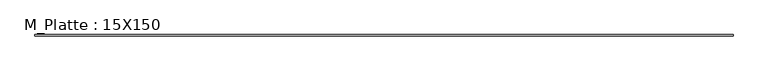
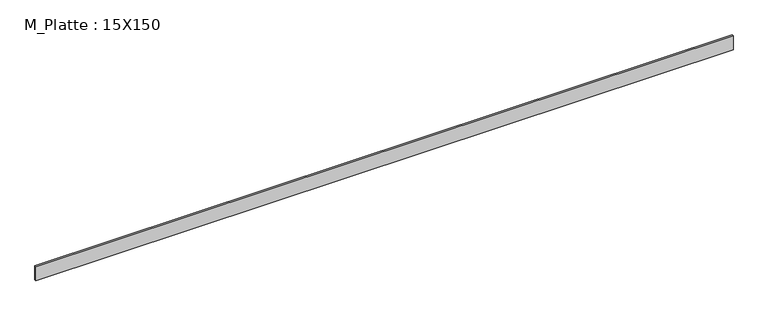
"""IFC4 building model written with IfcOpenShell, lengths in millimetres: beam geometry, M_Platte : 15X150."""

import ifcopenshell
import ifcopenshell.guid

model = None  # the IFC model being written
_history = None  # IfcOwnerHistory: only IFC2X3 demands one
_inside = {}  # id of a spatial element -> (the spatial element, [elements in it])
_under = {}  # id of a project, library or spatial element -> (it, [spatial elements below it])
_declared = {}  # id of a project -> (the project, [libraries it declares])
_typed = {}  # id of a type object -> (the type object, [elements of that type])
_made_of = {}  # id of a material, layer set ... -> (it, [elements and type objects made of it])


def new_model(schema):
    """Start an empty IFC model of exactly this schema.

    Asked for "IFC4X3", IfcOpenShell would pick the latest addendum, in which some entities
    have other attributes; the version numbers below select the first issue.
    IFC2X3 requires an IfcOwnerHistory on every rooted entity: one is made here for all.
    """
    global model, _history
    if schema == "IFC4X3":
        model = ifcopenshell.file(schema_version=(4, 3, 0, 0))
    else:
        model = ifcopenshell.file(schema=schema)
    _inside.clear()
    _under.clear()
    _declared.clear()
    _typed.clear()
    _made_of.clear()
    _history = None
    if model.schema == "IFC2X3":
        org = make("IfcOrganization", Name="unknown")
        user = make(
            "IfcPersonAndOrganization",
            ThePerson=make("IfcPerson", FamilyName="unknown"),
            TheOrganization=org,
        )
        app = make(
            "IfcApplication",
            ApplicationDeveloper=org,
            Version="unknown",
            ApplicationFullName="unknown",
            ApplicationIdentifier="unknown",
        )
        _history = make(
            "IfcOwnerHistory",
            OwningUser=user,
            OwningApplication=app,
            ChangeAction="ADDED",
            CreationDate=0,
        )
    return model


def make(cls, **values):
    """One entity of the class cls with the attributes given. An attribute that is None is left unset."""
    return model.create_entity(
        cls, **{name: value for name, value in values.items() if value is not None}
    )


def rooted(cls, **values):
    """An entity with a GlobalId (a new one), such as an element, a storey or a relation."""
    return make(cls, GlobalId=ifcopenshell.guid.new(), OwnerHistory=_history, **values)


def si_unit(unit_type, name, prefix=None):
    """IfcSIUnit, for example si_unit("LENGTHUNIT", "METRE", prefix="MILLI")."""
    return make("IfcSIUnit", UnitType=unit_type, Prefix=prefix, Name=name)


def assignment(units):
    """IfcUnitAssignment: the units of a project."""
    return None if units is None else make("IfcUnitAssignment", Units=units)


def point(xyz):
    """IfcCartesianPoint."""
    return None if xyz is None else make("IfcCartesianPoint", Coordinates=xyz)


def direction(xyz):
    """IfcDirection."""
    return None if xyz is None else make("IfcDirection", DirectionRatios=xyz)


def frame(location, z_axis=None, x_axis=None):
    """IfcAxis2Placement3D, a coordinate frame: its origin and axes. An axis left out is left unset."""
    return make(
        "IfcAxis2Placement3D",
        Location=point(location),
        Axis=direction(z_axis),
        RefDirection=direction(x_axis),
    )


def origin():
    """The frame at (0, 0, 0) with its axes left unset."""
    return frame((0.0, 0.0, 0.0))


def place(relative_to, where):
    """IfcLocalPlacement: puts the frame where relative to a parent placement (None: the world)."""
    return make(
        "IfcLocalPlacement", PlacementRelTo=relative_to, RelativePlacement=where
    )


def context(
    kind, dimensions, precision=None, world=None, true_north=None, identifier=None
):
    """IfcGeometricRepresentationContext, for example the 3D "Model" context."""
    return make(
        "IfcGeometricRepresentationContext",
        ContextIdentifier=identifier,
        ContextType=kind,
        CoordinateSpaceDimension=dimensions,
        Precision=precision,
        WorldCoordinateSystem=world,
        TrueNorth=true_north,
    )


def project(units=None, contexts=None):
    """IfcProject with its units and contexts."""
    return rooted(
        "IfcProject",
        Name="project",
        RepresentationContexts=contexts,
        UnitsInContext=assignment(units),
    )


def spatial(cls, under=None, at=None, **own):
    """A site, building, storey or space (cls), placed at a placement, below another one or the project."""
    s = rooted(cls, ObjectPlacement=at, **own)
    if under is not None:
        _under.setdefault(under.id(), (under, []))[1].append(s)
    return s


def polyline(points):
    """IfcPolyline through the points."""
    return make("IfcPolyline", Points=[point(p) for p in points])


def outline(outer, holes=None, kind="AREA"):
    """IfcArbitraryClosedProfileDef: a profile drawn as a closed curve; with holes, ...WithVoids."""
    if holes is None:
        return make("IfcArbitraryClosedProfileDef", ProfileType=kind, OuterCurve=outer)
    return make(
        "IfcArbitraryProfileDefWithVoids",
        ProfileType=kind,
        OuterCurve=outer,
        InnerCurves=holes,
    )


def extrude(swept, where, along, depth):
    """IfcExtrudedAreaSolid: the profile swept, set in the frame where, extruded along a direction by depth."""
    return make(
        "IfcExtrudedAreaSolid",
        SweptArea=swept,
        Position=where,
        ExtrudedDirection=direction(along),
        Depth=depth,
    )


def shape(context_of_items, identifier, shape_type, items):
    """IfcShapeRepresentation: the items that make up one representation, for example the "Body"."""
    return make(
        "IfcShapeRepresentation",
        ContextOfItems=context_of_items,
        RepresentationIdentifier=identifier,
        RepresentationType=shape_type,
        Items=items,
    )


def source(mapping_origin, context_of_items, identifier, shape_type, items):
    """IfcRepresentationMap: a shape defined once, which mapped items show again and again."""
    return make(
        "IfcRepresentationMap",
        MappingOrigin=mapping_origin,
        MappedRepresentation=shape(context_of_items, identifier, shape_type, items),
    )


def transform(
    local_origin,
    x_axis=None,
    y_axis=None,
    z_axis=None,
    scale=None,
    scale2=None,
    scale3=None,
    uniform=True,
):
    """IfcCartesianTransformationOperator3D, or its non-uniform kind. x_axis, y_axis, z_axis: its Axis1, 2, 3."""
    if uniform:
        return make(
            "IfcCartesianTransformationOperator3D",
            Axis1=direction(x_axis),
            Axis2=direction(y_axis),
            LocalOrigin=point(local_origin),
            Scale=scale,
            Axis3=direction(z_axis),
        )
    return make(
        "IfcCartesianTransformationOperator3DnonUniform",
        Axis1=direction(x_axis),
        Axis2=direction(y_axis),
        LocalOrigin=point(local_origin),
        Scale=scale,
        Axis3=direction(z_axis),
        Scale2=scale2,
        Scale3=scale3,
    )


def mapped(mapping_source, mapping_target):
    """IfcMappedItem: shows the shape of a source again, moved by a transform."""
    return make(
        "IfcMappedItem", MappingSource=mapping_source, MappingTarget=mapping_target
    )


def made_of(thing, what):
    """Note that an element or type object is made of a material, layer set ...; save() writes the relation."""
    if what is not None:
        _made_of.setdefault(what.id(), (what, []))[1].append(thing)
    return thing


def element(
    cls,
    number,
    at=None,
    inside=None,
    cuts=None,
    type_object=None,
    material=None,
    context=None,
    identifier="Body",
    shape_type=None,
    held_by="IfcProductDefinitionShape",
    body=None,
    shapes=None,
    **own,
):
    """One element of the class cls, such as IfcWall. Its Tag is "e" and its number.

    at: its placement. inside: the storey or other place that contains it. cuts: it is an
    opening in that element (IfcRelVoidsElement). A single representation is given by context,
    identifier, shape_type and body (its items); several are given by shapes. held_by: the class
    of the entity that holds the representations. save() writes the other relations.
    """
    e = rooted(cls, Tag="e%d" % number, ObjectPlacement=at, **own)
    if body is not None:
        shapes = [shape(context, identifier, shape_type, body)]
    if shapes is not None:
        e.Representation = make(held_by, Representations=shapes)
    if inside is not None:
        _inside.setdefault(inside.id(), (inside, []))[1].append(e)
    if cuts is not None:
        rooted(
            "IfcRelVoidsElement", RelatingBuildingElement=cuts, RelatedOpeningElement=e
        )
    if type_object is not None:
        _typed.setdefault(type_object.id(), (type_object, []))[1].append(e)
    return made_of(e, material)


def aggregate(whole, parts):
    """IfcRelAggregates: a whole, such as a stair, and the parts it consists of."""
    return rooted("IfcRelAggregates", RelatingObject=whole, RelatedObjects=parts)


def save(model, path):
    """Write the relations noted so far, then the file.

    IfcRelAggregates (storeys below a building ...), IfcRelContainedInSpatialStructure (elements
    in a storey), IfcRelDefinesByType, IfcRelAssociatesMaterial and IfcRelDeclares: one each for
    every whole, place, type object, material and project.
    """
    for whole, parts in _under.values():
        aggregate(whole, parts)
    for where, things in _inside.values():
        rooted(
            "IfcRelContainedInSpatialStructure",
            RelatedElements=things,
            RelatingStructure=where,
        )
    for kind, things in _typed.values():
        rooted("IfcRelDefinesByType", RelatedObjects=things, RelatingType=kind)
    for what, things in _made_of.values():
        rooted("IfcRelAssociatesMaterial", RelatedObjects=things, RelatingMaterial=what)
    for by, libraries in _declared.values():
        rooted("IfcRelDeclares", RelatingContext=by, RelatedDefinitions=libraries)
    model.write(path)


def m_platte_15x150_b669a1dd(model_context):
    return source(origin(), model_context, "Body", "SweptSolid", [
        extrude(outline(polyline([(3502.0685693, 7.5), (3502.0685693, -7.5), (-3502.0685693, -7.5), (-3502.0685693, 7.5), (3502.0685693, 7.5)])), frame((0.0, 0.0, -75.0), z_axis=(0.0, 0.0, 1.0), x_axis=(1.0, 0.0, 0.0)), (0.0, 0.0, 1.0), 150.0),
    ])


if __name__ == "__main__":
    model = new_model("IFC4")
    model_context = context("Model", 3, world=origin())
    ifc_project = project(units=[si_unit("LENGTHUNIT", "METRE", prefix="MILLI")], contexts=[model_context])
    site = spatial("IfcSite", under=ifc_project)
    building = spatial("IfcBuilding", under=site)
    placement = place(None, origin())
    m_platte_15x150_shape = m_platte_15x150_b669a1dd(model_context)
    element("IfcBeam", 1, ObjectType="M_Platte : 15X150", at=placement, inside=building, context=model_context, shape_type="MappedRepresentation", body=[
        mapped(m_platte_15x150_shape, transform((0.0, 0.0, 0.0), x_axis=(1.0, 0.0, 0.0), y_axis=(0.0, 1.0, 0.0), z_axis=(0.0, 0.0, 1.0))),
    ])
    save(model, "model.ifc")
